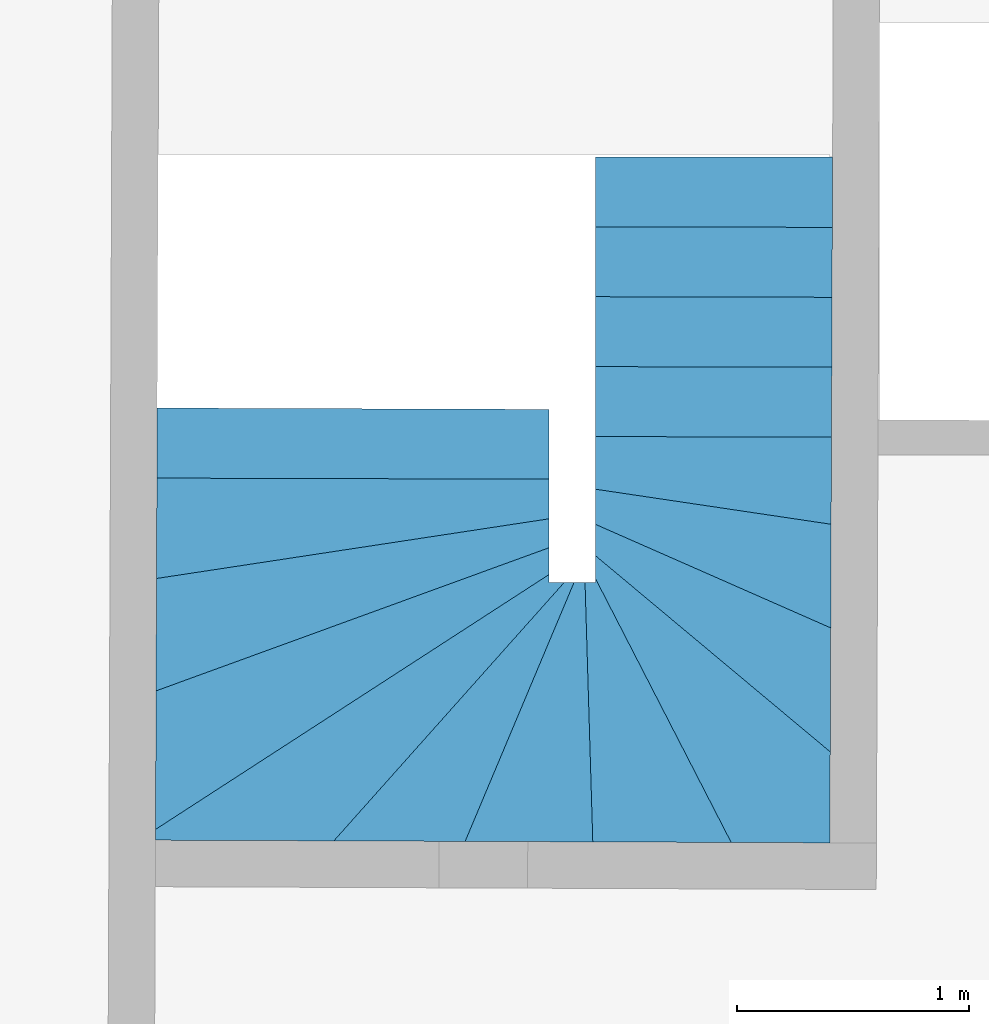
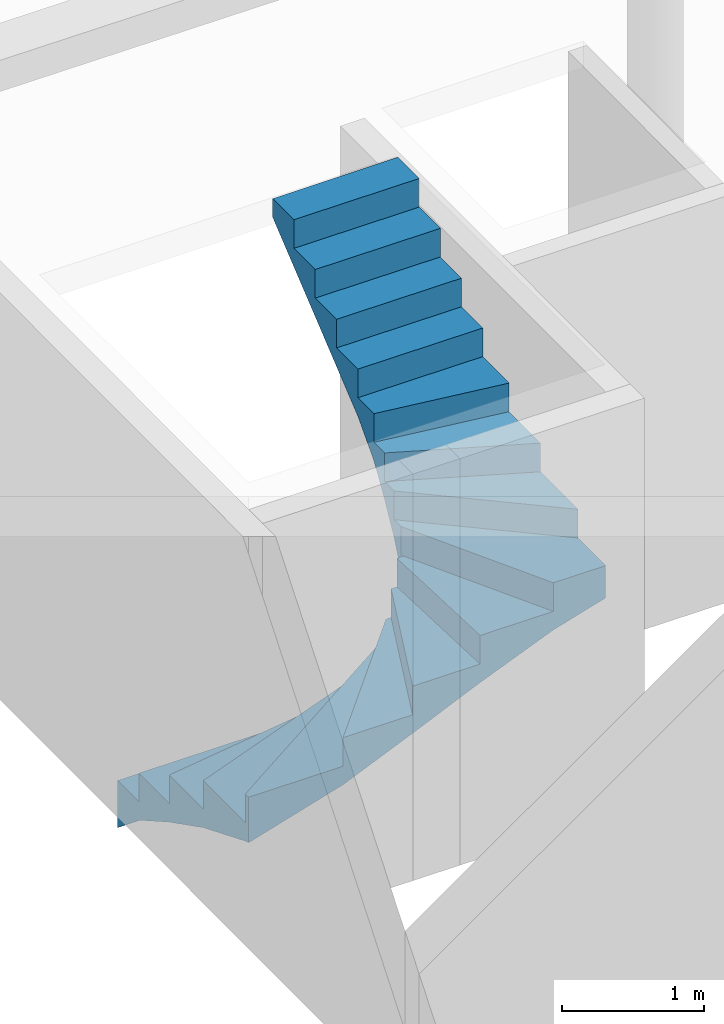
# One storey, part 2 of 2: 1 stair.
"""IFC2X3 building model written with IfcOpenShell, lengths in millimetres."""

import ifcopenshell
import ifcopenshell.guid

model = None  # the IFC model being written
_history = None  # IfcOwnerHistory: only IFC2X3 demands one
_inside = {}  # id of a spatial element -> (the spatial element, [elements in it])
_under = {}  # id of a project, library or spatial element -> (it, [spatial elements below it])
_declared = {}  # id of a project -> (the project, [libraries it declares])
_typed = {}  # id of a type object -> (the type object, [elements of that type])
_made_of = {}  # id of a material, layer set ... -> (it, [elements and type objects made of it])


def new_model(schema):
    """Start an empty IFC model of exactly this schema.

    Asked for "IFC4X3", IfcOpenShell would pick the latest addendum, in which some entities
    have other attributes; the version numbers below select the first issue.
    IFC2X3 requires an IfcOwnerHistory on every rooted entity: one is made here for all.
    """
    global model, _history
    if schema == "IFC4X3":
        model = ifcopenshell.file(schema_version=(4, 3, 0, 0))
    else:
        model = ifcopenshell.file(schema=schema)
    _inside.clear()
    _under.clear()
    _declared.clear()
    _typed.clear()
    _made_of.clear()
    _history = None
    if model.schema == "IFC2X3":
        org = make("IfcOrganization", Name="unknown")
        user = make(
            "IfcPersonAndOrganization",
            ThePerson=make("IfcPerson", FamilyName="unknown"),
            TheOrganization=org,
        )
        app = make(
            "IfcApplication",
            ApplicationDeveloper=org,
            Version="unknown",
            ApplicationFullName="unknown",
            ApplicationIdentifier="unknown",
        )
        _history = make(
            "IfcOwnerHistory",
            OwningUser=user,
            OwningApplication=app,
            ChangeAction="ADDED",
            CreationDate=0,
        )
    return model


def make(cls, **values):
    """One entity of the class cls with the attributes given. An attribute that is None is left unset."""
    return model.create_entity(
        cls, **{name: value for name, value in values.items() if value is not None}
    )


def entity(cls, *values):
    """Any entity or typed value of the class cls, its attributes in the order of the schema. None: left unset."""
    e = model.create_entity(cls)
    for i, value in enumerate(values):
        if value is not None:
            e[i] = value
    return e


def rooted(cls, **values):
    """An entity with a GlobalId (a new one), such as an element, a storey or a relation."""
    return make(cls, GlobalId=ifcopenshell.guid.new(), OwnerHistory=_history, **values)


def si_unit(unit_type, name, prefix=None):
    """IfcSIUnit, for example si_unit("LENGTHUNIT", "METRE", prefix="MILLI")."""
    return make("IfcSIUnit", UnitType=unit_type, Prefix=prefix, Name=name)


def converted_unit(unit_type, name, factor, base, dimensions=None, offset=None):
    """IfcConversionBasedUnit, such as the inch: factor (a typed value) times the base unit."""
    return make(
        "IfcConversionBasedUnit"
        if offset is None
        else "IfcConversionBasedUnitWithOffset",
        ConversionOffset=offset,
        Dimensions=None
        if dimensions is None
        else entity("IfcDimensionalExponents", *dimensions),
        UnitType=unit_type,
        Name=name,
        ConversionFactor=make(
            "IfcMeasureWithUnit", ValueComponent=factor, UnitComponent=base
        ),
    )


def assignment(units):
    """IfcUnitAssignment: the units of a project."""
    return None if units is None else make("IfcUnitAssignment", Units=units)


def point(xyz):
    """IfcCartesianPoint."""
    return None if xyz is None else make("IfcCartesianPoint", Coordinates=xyz)


def direction(xyz):
    """IfcDirection."""
    return None if xyz is None else make("IfcDirection", DirectionRatios=xyz)


def frame(location, z_axis=None, x_axis=None):
    """IfcAxis2Placement3D, a coordinate frame: its origin and axes. An axis left out is left unset."""
    return make(
        "IfcAxis2Placement3D",
        Location=point(location),
        Axis=direction(z_axis),
        RefDirection=direction(x_axis),
    )


def origin():
    """The frame at (0, 0, 0) with its axes left unset."""
    return frame((0.0, 0.0, 0.0))


def place(relative_to, where):
    """IfcLocalPlacement: puts the frame where relative to a parent placement (None: the world)."""
    return make(
        "IfcLocalPlacement", PlacementRelTo=relative_to, RelativePlacement=where
    )


def context(
    kind, dimensions, precision=None, world=None, true_north=None, identifier=None
):
    """IfcGeometricRepresentationContext, for example the 3D "Model" context."""
    return make(
        "IfcGeometricRepresentationContext",
        ContextIdentifier=identifier,
        ContextType=kind,
        CoordinateSpaceDimension=dimensions,
        Precision=precision,
        WorldCoordinateSystem=world,
        TrueNorth=true_north,
    )


def subcontext(parent, identifier, kind, view, scale=None):
    """IfcGeometricRepresentationSubContext, for example "Body" below "Model"."""
    return make(
        "IfcGeometricRepresentationSubContext",
        ContextIdentifier=identifier,
        ContextType=kind,
        ParentContext=parent,
        TargetScale=scale,
        TargetView=view,
    )


def project(units=None, contexts=None):
    """IfcProject with its units and contexts."""
    return rooted(
        "IfcProject",
        Name="project",
        RepresentationContexts=contexts,
        UnitsInContext=assignment(units),
    )


def spatial(cls, under=None, at=None, **own):
    """A site, building, storey or space (cls), placed at a placement, below another one or the project."""
    s = rooted(cls, ObjectPlacement=at, **own)
    if under is not None:
        _under.setdefault(under.id(), (under, []))[1].append(s)
    return s


def faces_of(points, faces, orient=None, outer=None):
    """IfcFace entities. A face is a list of loops; a loop is a list of indices into points, from 0.

    orient and outer hold one flag for each loop. By default every Orientation is true, the
    first loop of a face is its IfcFaceOuterBound and the others are IfcFaceBound.
    """
    made = []
    for i, loops in enumerate(faces):
        bounds = []
        for j, loop in enumerate(loops):
            is_outer = j == 0 if outer is None else outer[i][j]
            bounds.append(
                make(
                    "IfcFaceOuterBound" if is_outer else "IfcFaceBound",
                    Bound=make("IfcPolyLoop", Polygon=[points[k] for k in loop]),
                    Orientation=True if orient is None else orient[i][j],
                )
            )
        made.append(make("IfcFace", Bounds=bounds))
    return made


def faceted_brep(points, faces, orient=None, outer=None, voids=None):
    """IfcFacetedBrep: a solid bounded by flat faces; with voids (closed shells), ...WithVoids."""
    shared = [point(p) for p in points]
    hull = make("IfcClosedShell", CfsFaces=faces_of(shared, faces, orient, outer))
    if voids is None:
        return make("IfcFacetedBrep", Outer=hull)
    return make(
        "IfcFacetedBrepWithVoids",
        Outer=hull,
        Voids=[
            make(cls, CfsFaces=faces_of(shared, fs, o, b)) for cls, fs, o, b in voids
        ],
    )


def shape(context_of_items, identifier, shape_type, items):
    """IfcShapeRepresentation: the items that make up one representation, for example the "Body"."""
    return make(
        "IfcShapeRepresentation",
        ContextOfItems=context_of_items,
        RepresentationIdentifier=identifier,
        RepresentationType=shape_type,
        Items=items,
    )


def material(Name=None, Category=None):
    """IfcMaterial."""
    return make("IfcMaterial", Name=Name, Category=Category)


def made_of(thing, what):
    """Note that an element or type object is made of a material, layer set ...; save() writes the relation."""
    if what is not None:
        _made_of.setdefault(what.id(), (what, []))[1].append(thing)
    return thing


def element(
    cls,
    number,
    at=None,
    inside=None,
    cuts=None,
    type_object=None,
    material=None,
    context=None,
    identifier="Body",
    shape_type=None,
    held_by="IfcProductDefinitionShape",
    body=None,
    shapes=None,
    **own,
):
    """One element of the class cls, such as IfcWall. Its Tag is "e" and its number.

    at: its placement. inside: the storey or other place that contains it. cuts: it is an
    opening in that element (IfcRelVoidsElement). A single representation is given by context,
    identifier, shape_type and body (its items); several are given by shapes. held_by: the class
    of the entity that holds the representations. save() writes the other relations.
    """
    e = rooted(cls, Tag="e%d" % number, ObjectPlacement=at, **own)
    if body is not None:
        shapes = [shape(context, identifier, shape_type, body)]
    if shapes is not None:
        e.Representation = make(held_by, Representations=shapes)
    if inside is not None:
        _inside.setdefault(inside.id(), (inside, []))[1].append(e)
    if cuts is not None:
        rooted(
            "IfcRelVoidsElement", RelatingBuildingElement=cuts, RelatedOpeningElement=e
        )
    if type_object is not None:
        _typed.setdefault(type_object.id(), (type_object, []))[1].append(e)
    return made_of(e, material)


def aggregate(whole, parts):
    """IfcRelAggregates: a whole, such as a stair, and the parts it consists of."""
    return rooted("IfcRelAggregates", RelatingObject=whole, RelatedObjects=parts)


def save(model, path):
    """Write the relations noted so far, then the file.

    IfcRelAggregates (storeys below a building ...), IfcRelContainedInSpatialStructure (elements
    in a storey), IfcRelDefinesByType, IfcRelAssociatesMaterial and IfcRelDeclares: one each for
    every whole, place, type object, material and project.
    """
    for whole, parts in _under.values():
        aggregate(whole, parts)
    for where, things in _inside.values():
        rooted(
            "IfcRelContainedInSpatialStructure",
            RelatedElements=things,
            RelatingStructure=where,
        )
    for kind, things in _typed.values():
        rooted("IfcRelDefinesByType", RelatedObjects=things, RelatingType=kind)
    for what, things in _made_of.values():
        rooted("IfcRelAssociatesMaterial", RelatedObjects=things, RelatingMaterial=what)
    for by, libraries in _declared.values():
        rooted("IfcRelDeclares", RelatingContext=by, RelatedDefinitions=libraries)
    model.write(path)


model = new_model("IFC2X3")

# Units and contexts
model_context = context("Model", 3, precision=1e-05, world=origin())
body_context = subcontext(model_context, "Body", "Model", "MODEL_VIEW")
ifc_project = project(units=[si_unit("LENGTHUNIT", "METRE", prefix="MILLI"), converted_unit("PLANEANGLEUNIT", "DEGREE", entity("IfcPlaneAngleMeasure", 0.0174532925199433), si_unit("PLANEANGLEUNIT", "RADIAN"), dimensions=[0, 0, 0, 0, 0, 0, 0]), si_unit("AREAUNIT", "SQUARE_METRE"), si_unit("VOLUMEUNIT", "CUBIC_METRE")], contexts=[model_context])

# Building, storey
building_placement = place(None, origin())
building = spatial("IfcBuilding", under=ifc_project, at=building_placement, Name="Bâtiment", CompositionType="ELEMENT")
storey_placement = place(building_placement, frame((0.0, 0.0, 1760.0), z_axis=(0.0, 0.0, 1.0), x_axis=(1.0, 0.0, 0.0)))
storey = spatial("IfcBuildingStorey", under=building, at=storey_placement, Name="Rez-de-chaussée", CompositionType="ELEMENT", Elevation=1760.0)

# Stair
ifc_material = material(Name="Escalier semi-tournant")
stair_placement = place(storey_placement, frame((5055.74535985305, -16724.56788399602, -570.01), z_axis=(0.0, 0.0, 1.0), x_axis=(1.0, 0.0, 0.0)))
element("IfcStair", 1, at=stair_placement, inside=storey, material=ifc_material, Name="<Unnamed Element>", ShapeType="NOTDEFINED", context=body_context, shape_type="Brep", body=[
    faceted_brep([(2911.926495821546, 2647.758660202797, 3693.76), (2913.122134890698, 2949.835560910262, 3940.01), (1893.003393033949, 2650.25357057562, 3693.76), (2913.122134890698, 2949.835560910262, 3940.01), (1893.003393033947, 2949.835560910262, 3940.01), (1893.003393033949, 2650.25357057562, 3693.76), (1893.003393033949, 2650.25357057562, 4100.01), (1893.003393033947, 2949.835560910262, 4100.01), (2913.122134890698, 2949.835560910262, 4100.01), (2911.926495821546, 2647.758660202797, 4100.01), (1893.003393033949, 2650.25357057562, 3693.76), (1893.003393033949, 2650.25357057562, 4100.01), (2911.926495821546, 2647.758660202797, 4100.01), (2911.926495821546, 2647.758660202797, 3693.76), (2911.926495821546, 2647.758660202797, 3693.76), (2911.926495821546, 2647.758660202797, 4100.01), (2913.122134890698, 2949.835560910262, 4100.01), (2913.122134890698, 2949.835560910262, 3940.01), (2913.122134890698, 2949.835560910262, 3940.01), (2913.122134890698, 2949.835560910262, 4100.01), (1893.003393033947, 2949.835560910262, 4100.01), (1893.003393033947, 2949.835560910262, 3940.01), (1893.003393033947, 2949.835560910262, 3940.01), (1893.003393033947, 2949.835560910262, 4100.01), (1893.003393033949, 2650.25357057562, 4100.01), (1893.003393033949, 2650.25357057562, 3693.76)], [[[0, 1, 2]], [[3, 4, 5]], [[6, 7, 8, 9]], [[10, 11, 12, 13]], [[14, 15, 16, 17]], [[18, 19, 20, 21]], [[22, 23, 24, 25]]], orient=[[False], [False], [False], [False], [False], [False], [False]]),
    faceted_brep([(2910.735800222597, 2346.930721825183, 3447.51), (2911.926495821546, 2647.758660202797, 3693.76), (1893.003393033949, 2650.25357057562, 3693.76), (1893.003393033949, 2349.422716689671, 3447.51), (1893.003393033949, 2349.422716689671, 3853.76), (1893.003393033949, 2650.25357057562, 3853.76), (2911.926495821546, 2647.758660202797, 3853.76), (2910.735800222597, 2346.930721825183, 3853.76), (1893.003393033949, 2349.422716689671, 3447.51), (1893.003393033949, 2349.422716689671, 3853.76), (2910.735800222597, 2346.930721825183, 3853.76), (2910.735800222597, 2346.930721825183, 3447.51), (2910.735800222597, 2346.930721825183, 3447.51), (2910.735800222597, 2346.930721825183, 3853.76), (2911.926495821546, 2647.758660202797, 3853.76), (2911.926495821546, 2647.758660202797, 3693.76), (2911.926495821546, 2647.758660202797, 3693.76), (2911.926495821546, 2647.758660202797, 3853.76), (1893.003393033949, 2650.25357057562, 3853.76), (1893.003393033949, 2650.25357057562, 3693.76), (1893.003393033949, 2650.25357057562, 3693.76), (1893.003393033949, 2650.25357057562, 3853.76), (1893.003393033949, 2349.422716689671, 3853.76), (1893.003393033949, 2349.422716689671, 3447.51)], [[[0, 1, 2, 3]], [[4, 5, 6, 7]], [[8, 9, 10, 11]], [[12, 13, 14, 15]], [[16, 17, 18, 19]], [[20, 21, 22, 23]]], orient=[[False], [False], [False], [False], [False], [False]]),
    faceted_brep([(2909.545104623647, 2046.10278344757, 3201.26), (2910.735800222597, 2346.930721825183, 3447.51), (1893.003393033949, 2349.422716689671, 3447.51), (1893.003393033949, 2048.59186280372, 3201.26), (1893.003393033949, 2048.59186280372, 3607.51), (1893.003393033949, 2349.422716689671, 3607.51), (2910.735800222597, 2346.930721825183, 3607.51), (2909.545104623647, 2046.10278344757, 3607.51), (1893.003393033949, 2048.59186280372, 3201.26), (1893.003393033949, 2048.59186280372, 3607.51), (2909.545104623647, 2046.10278344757, 3607.51), (2909.545104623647, 2046.10278344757, 3201.26), (2909.545104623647, 2046.10278344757, 3201.26), (2909.545104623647, 2046.10278344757, 3607.51), (2910.735800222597, 2346.930721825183, 3607.51), (2910.735800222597, 2346.930721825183, 3447.51), (2910.735800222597, 2346.930721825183, 3447.51), (2910.735800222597, 2346.930721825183, 3607.51), (1893.003393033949, 2349.422716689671, 3607.51), (1893.003393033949, 2349.422716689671, 3447.51), (1893.003393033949, 2349.422716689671, 3447.51), (1893.003393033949, 2349.422716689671, 3607.51), (1893.003393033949, 2048.59186280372, 3607.51), (1893.003393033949, 2048.59186280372, 3201.26)], [[[0, 1, 2, 3]], [[4, 5, 6, 7]], [[8, 9, 10, 11]], [[12, 13, 14, 15]], [[16, 17, 18, 19]], [[20, 21, 22, 23]]], orient=[[False], [False], [False], [False], [False], [False]]),
    faceted_brep([(2908.354409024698, 1745.274845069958, 2955.01), (2909.545104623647, 2046.10278344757, 3201.26), (1893.003393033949, 2048.59186280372, 3201.26), (1893.003393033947, 1747.761008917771, 2955.01), (1893.003393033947, 1747.761008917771, 3361.26), (1893.003393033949, 2048.59186280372, 3361.26), (2909.545104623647, 2046.10278344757, 3361.26), (2908.354409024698, 1745.274845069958, 3361.26), (1893.003393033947, 1747.761008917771, 2955.01), (1893.003393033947, 1747.761008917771, 3361.26), (2908.354409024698, 1745.274845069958, 3361.26), (2908.354409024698, 1745.274845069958, 2955.01), (2908.354409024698, 1745.274845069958, 2955.01), (2908.354409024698, 1745.274845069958, 3361.26), (2909.545104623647, 2046.10278344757, 3361.26), (2909.545104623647, 2046.10278344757, 3201.26), (2909.545104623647, 2046.10278344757, 3201.26), (2909.545104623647, 2046.10278344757, 3361.26), (1893.003393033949, 2048.59186280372, 3361.26), (1893.003393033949, 2048.59186280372, 3201.26), (1893.003393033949, 2048.59186280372, 3201.26), (1893.003393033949, 2048.59186280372, 3361.26), (1893.003393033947, 1747.761008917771, 3361.26), (1893.003393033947, 1747.761008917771, 2955.01)], [[[0, 1, 2, 3]], [[4, 5, 6, 7]], [[8, 9, 10, 11]], [[12, 13, 14, 15]], [[16, 17, 18, 19]], [[20, 21, 22, 23]]], orient=[[False], [False], [False], [False], [False], [False]]),
    faceted_brep([(2906.871176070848, 1370.537664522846, 2708.76), (2908.354409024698, 1745.274845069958, 2955.01), (1893.003393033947, 1521.319357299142, 2708.76), (2908.354409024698, 1745.274845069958, 2955.01), (1893.003393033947, 1747.761008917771, 2955.01), (1893.003393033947, 1521.319357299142, 2708.76), (1893.003393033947, 1521.319357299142, 3115.01), (1893.003393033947, 1747.761008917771, 3115.01), (2908.354409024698, 1745.274845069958, 3115.01), (2906.871176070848, 1370.537664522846, 3115.01), (1893.003393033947, 1521.319357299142, 2708.76), (1893.003393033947, 1521.319357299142, 3115.01), (2906.871176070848, 1370.537664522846, 3115.01), (2906.871176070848, 1370.537664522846, 2708.76), (2906.871176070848, 1370.537664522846, 2708.76), (2906.871176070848, 1370.537664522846, 3115.01), (2908.354409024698, 1745.274845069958, 3115.01), (2908.354409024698, 1745.274845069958, 2955.01), (2908.354409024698, 1745.274845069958, 2955.01), (2908.354409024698, 1745.274845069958, 3115.01), (1893.003393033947, 1747.761008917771, 3115.01), (1893.003393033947, 1747.761008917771, 2955.01), (1893.003393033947, 1747.761008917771, 2955.01), (1893.003393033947, 1747.761008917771, 3115.01), (1893.003393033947, 1521.319357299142, 3115.01), (1893.003393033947, 1521.319357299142, 2708.76)], [[[0, 1, 2]], [[3, 4, 5]], [[6, 7, 8, 9]], [[10, 11, 12, 13]], [[14, 15, 16, 17]], [[18, 19, 20, 21]], [[22, 23, 24, 25]]], orient=[[False], [False], [False], [False], [False], [False], [False]]),
    faceted_brep([(2905.106470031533, 924.6866173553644, 2462.51), (2906.871176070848, 1370.537664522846, 2708.76), (1893.003393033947, 1370.176256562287, 2462.51), (2906.871176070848, 1370.537664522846, 2708.76), (1893.003393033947, 1521.319357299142, 2708.76), (1893.003393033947, 1370.176256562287, 2462.51), (1893.003393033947, 1370.176256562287, 2868.76), (1893.003393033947, 1521.319357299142, 2868.76), (2906.871176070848, 1370.537664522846, 2868.76), (2905.106470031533, 924.6866173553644, 2868.76), (1893.003393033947, 1370.176256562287, 2462.51), (1893.003393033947, 1370.176256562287, 2868.76), (2905.106470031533, 924.6866173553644, 2868.76), (2905.106470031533, 924.6866173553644, 2462.51), (2905.106470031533, 924.6866173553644, 2462.51), (2905.106470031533, 924.6866173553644, 2868.76), (2906.871176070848, 1370.537664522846, 2868.76), (2906.871176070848, 1370.537664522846, 2708.76), (2906.871176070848, 1370.537664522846, 2708.76), (2906.871176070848, 1370.537664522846, 2868.76), (1893.003393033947, 1521.319357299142, 2868.76), (1893.003393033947, 1521.319357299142, 2708.76), (1893.003393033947, 1521.319357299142, 2708.76), (1893.003393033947, 1521.319357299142, 2868.76), (1893.003393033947, 1370.176256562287, 2868.76), (1893.003393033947, 1370.176256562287, 2462.51)], [[[0, 1, 2]], [[3, 4, 5]], [[6, 7, 8, 9]], [[10, 11, 12, 13]], [[14, 15, 16, 17]], [[18, 19, 20, 21]], [[22, 23, 24, 25]]], orient=[[False], [False], [False], [False], [False], [False], [False]]),
    faceted_brep([(2902.995917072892, 391.4577249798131, 2216.26), (2905.106470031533, 924.6866173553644, 2462.51), (1893.003393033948, 1235.365693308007, 2216.26), (2905.106470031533, 924.6866173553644, 2462.51), (1893.003393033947, 1370.176256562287, 2462.51), (1893.003393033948, 1235.365693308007, 2216.26), (1893.003393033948, 1235.365693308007, 2622.51), (1893.003393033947, 1370.176256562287, 2622.51), (2905.106470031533, 924.6866173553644, 2622.51), (2902.995917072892, 391.4577249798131, 2622.51), (1893.003393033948, 1235.365693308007, 2216.26), (1893.003393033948, 1235.365693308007, 2622.51), (2902.995917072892, 391.4577249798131, 2622.51), (2902.995917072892, 391.4577249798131, 2216.26), (2902.995917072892, 391.4577249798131, 2216.26), (2902.995917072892, 391.4577249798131, 2622.51), (2905.106470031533, 924.6866173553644, 2622.51), (2905.106470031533, 924.6866173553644, 2462.51), (2905.106470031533, 924.6866173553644, 2462.51), (2905.106470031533, 924.6866173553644, 2622.51), (1893.003393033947, 1370.176256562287, 2622.51), (1893.003393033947, 1370.176256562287, 2462.51), (1893.003393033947, 1370.176256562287, 2462.51), (1893.003393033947, 1370.176256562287, 2622.51), (1893.003393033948, 1235.365693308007, 2622.51), (1893.003393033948, 1235.365693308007, 2216.26)], [[[0, 1, 2]], [[3, 4, 5]], [[6, 7, 8, 9]], [[10, 11, 12, 13]], [[14, 15, 16, 17]], [[18, 19, 20, 21]], [[22, 23, 24, 25]]], orient=[[False], [False], [False], [False], [False], [False], [False]]),
    faceted_brep([(2476.923187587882, 1.690289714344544, 1970.01), (2901.446542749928, 0.01000000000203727, 2098.12590845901), (1893.003393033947, 1136.819234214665, 1970.01), (2901.446542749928, 0.01000000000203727, 2098.12590845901), (1893.003393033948, 1235.365693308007, 2216.26), (1893.003393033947, 1136.819234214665, 1970.01), (2901.446542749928, 0.01000000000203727, 2098.12590845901), (2902.995917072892, 391.4577249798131, 2216.26), (1893.003393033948, 1235.365693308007, 2216.26), (1893.003393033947, 1136.819234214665, 2376.26), (1893.003393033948, 1235.365693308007, 2376.26), (2902.995917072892, 391.4577249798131, 2376.26), (2901.446542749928, 0.01000000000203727, 2376.26), (2476.923187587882, 1.690289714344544, 2376.26), (1893.003393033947, 1136.819234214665, 1970.01), (1893.003393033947, 1136.819234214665, 2376.26), (2476.923187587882, 1.690289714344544, 2376.26), (2476.923187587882, 1.690289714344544, 1970.01), (2476.923187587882, 1.690289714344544, 1970.01), (2476.923187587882, 1.690289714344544, 2376.26), (2901.446542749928, 0.01000000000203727, 2376.26), (2901.446542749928, 0.01000000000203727, 2098.12590845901), (2901.446542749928, 0.01000000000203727, 2098.12590845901), (2901.446542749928, 0.01000000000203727, 2376.26), (2902.995917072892, 391.4577249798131, 2376.26), (2902.995917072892, 391.4577249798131, 2216.26), (2902.995917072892, 391.4577249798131, 2216.26), (2902.995917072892, 391.4577249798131, 2376.26), (1893.003393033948, 1235.365693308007, 2376.26), (1893.003393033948, 1235.365693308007, 2216.26), (1893.003393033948, 1235.365693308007, 2216.26), (1893.003393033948, 1235.365693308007, 2376.26), (1893.003393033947, 1136.819234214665, 2376.26), (1893.003393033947, 1136.819234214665, 1970.01)], [[[0, 1, 2]], [[3, 4, 5]], [[6, 7, 8]], [[9, 10, 11, 12, 13]], [[14, 15, 16, 17]], [[18, 19, 20, 21]], [[22, 23, 24, 25]], [[26, 27, 28, 29]], [[30, 31, 32, 33]]], orient=[[False], [False], [False], [False], [False], [False], [False], [False], [False]]),
    faceted_brep([(1881.452222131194, 4.047200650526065, 1723.76), (2476.923187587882, 1.690289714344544, 1970.01), (1848.016859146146, 1119.835560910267, 1723.76), (2476.923187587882, 1.690289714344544, 1970.01), (1893.003393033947, 1119.835560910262, 1902.522254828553), (1848.016859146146, 1119.835560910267, 1723.76), (2476.923187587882, 1.690289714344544, 1970.01), (1893.003393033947, 1136.819234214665, 1970.01), (1893.003393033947, 1119.835560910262, 1902.522254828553), (1848.016859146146, 1119.835560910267, 2130.01), (1893.003393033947, 1119.835560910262, 2130.01), (1893.003393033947, 1136.819234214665, 2130.01), (2476.923187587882, 1.690289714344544, 2130.01), (1881.452222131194, 4.047200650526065, 2130.01), (1848.016859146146, 1119.835560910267, 1723.76), (1848.016859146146, 1119.835560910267, 2130.01), (1881.452222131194, 4.047200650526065, 2130.01), (1881.452222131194, 4.047200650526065, 1723.76), (1881.452222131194, 4.047200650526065, 1723.76), (1881.452222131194, 4.047200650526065, 2130.01), (2476.923187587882, 1.690289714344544, 2130.01), (2476.923187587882, 1.690289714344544, 1970.01), (2476.923187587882, 1.690289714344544, 1970.01), (2476.923187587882, 1.690289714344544, 2130.01), (1893.003393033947, 1136.819234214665, 2130.01), (1893.003393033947, 1136.819234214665, 1970.01), (1893.003393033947, 1136.819234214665, 1970.01), (1893.003393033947, 1136.819234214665, 2130.01), (1893.003393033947, 1119.835560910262, 2130.01), (1893.003393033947, 1119.835560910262, 1902.522254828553), (1893.003393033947, 1119.835560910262, 1902.522254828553), (1893.003393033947, 1119.835560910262, 2130.01), (1848.016859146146, 1119.835560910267, 2130.01), (1848.016859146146, 1119.835560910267, 1723.76)], [[[0, 1, 2]], [[3, 4, 5]], [[6, 7, 8]], [[9, 10, 11, 12, 13]], [[14, 15, 16, 17]], [[18, 19, 20, 21]], [[22, 23, 24, 25]], [[26, 27, 28, 29]], [[30, 31, 32, 33]]], orient=[[False], [False], [False], [False], [False], [False], [False], [False], [False]]),
    faceted_brep([(1332.247034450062, 6.220988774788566, 1477.51), (1881.452222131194, 4.047200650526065, 1723.76), (1800.548069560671, 1119.835560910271, 1477.51), (1881.452222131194, 4.047200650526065, 1723.76), (1848.016859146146, 1119.835560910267, 1723.76), (1800.548069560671, 1119.835560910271, 1477.51), (1800.548069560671, 1119.835560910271, 1883.76), (1848.016859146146, 1119.835560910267, 1883.76), (1881.452222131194, 4.047200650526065, 1883.76), (1332.247034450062, 6.220988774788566, 1883.76), (1800.548069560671, 1119.835560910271, 1477.51), (1800.548069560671, 1119.835560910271, 1883.76), (1332.247034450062, 6.220988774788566, 1883.76), (1332.247034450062, 6.220988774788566, 1477.51), (1332.247034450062, 6.220988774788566, 1477.51), (1332.247034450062, 6.220988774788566, 1883.76), (1881.452222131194, 4.047200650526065, 1883.76), (1881.452222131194, 4.047200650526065, 1723.76), (1881.452222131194, 4.047200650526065, 1723.76), (1881.452222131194, 4.047200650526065, 1883.76), (1848.016859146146, 1119.835560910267, 1883.76), (1848.016859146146, 1119.835560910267, 1723.76), (1848.016859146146, 1119.835560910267, 1723.76), (1848.016859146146, 1119.835560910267, 1883.76), (1800.548069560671, 1119.835560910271, 1883.76), (1800.548069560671, 1119.835560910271, 1477.51)], [[[0, 1, 2]], [[3, 4, 5]], [[6, 7, 8, 9]], [[10, 11, 12, 13]], [[14, 15, 16, 17]], [[18, 19, 20, 21]], [[22, 23, 24, 25]]], orient=[[False], [False], [False], [False], [False], [False], [False]]),
    faceted_brep([(767.3711352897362, 8.456802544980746, 1231.26), (1332.247034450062, 6.220988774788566, 1477.51), (1758.194653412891, 1119.835560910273, 1231.26), (1332.247034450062, 6.220988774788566, 1477.51), (1800.548069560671, 1119.835560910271, 1477.51), (1758.194653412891, 1119.835560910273, 1231.26), (1758.194653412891, 1119.835560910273, 1637.51), (1800.548069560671, 1119.835560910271, 1637.51), (1332.247034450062, 6.220988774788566, 1637.51), (767.3711352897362, 8.456802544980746, 1637.51), (1758.194653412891, 1119.835560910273, 1231.26), (1758.194653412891, 1119.835560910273, 1637.51), (767.3711352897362, 8.456802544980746, 1637.51), (767.3711352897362, 8.456802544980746, 1231.26), (767.3711352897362, 8.456802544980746, 1231.26), (767.3711352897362, 8.456802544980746, 1637.51), (1332.247034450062, 6.220988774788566, 1637.51), (1332.247034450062, 6.220988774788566, 1477.51), (1332.247034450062, 6.220988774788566, 1477.51), (1332.247034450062, 6.220988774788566, 1637.51), (1800.548069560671, 1119.835560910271, 1637.51), (1800.548069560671, 1119.835560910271, 1477.51), (1800.548069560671, 1119.835560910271, 1477.51), (1800.548069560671, 1119.835560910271, 1637.51), (1758.194653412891, 1119.835560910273, 1637.51), (1758.194653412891, 1119.835560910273, 1231.26)], [[[0, 1, 2]], [[3, 4, 5]], [[6, 7, 8, 9]], [[10, 11, 12, 13]], [[14, 15, 16, 17]], [[18, 19, 20, 21]], [[22, 23, 24, 25]]], orient=[[False], [False], [False], [False], [False], [False], [False]]),
    faceted_brep([(0.1925990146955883, 57.62750639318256, 985.01), (0.01000000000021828, 11.49406541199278, 998.9748870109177), (1693.003393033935, 1154.092236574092, 985.01), (0.01000000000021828, 11.49406541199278, 998.9748870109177), (1693.003393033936, 1119.83556091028, 1069.835354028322), (1693.003393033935, 1154.092236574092, 985.01), (0.01000000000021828, 11.49406541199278, 998.9748870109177), (767.3711352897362, 8.456802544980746, 1231.26), (1693.003393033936, 1119.83556091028, 1069.835354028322), (767.3711352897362, 8.456802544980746, 1231.26), (1758.194653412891, 1119.835560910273, 1231.26), (1693.003393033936, 1119.83556091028, 1069.835354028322), (1693.003393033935, 1154.092236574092, 1391.26), (1693.003393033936, 1119.83556091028, 1391.26), (1758.194653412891, 1119.835560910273, 1391.26), (767.3711352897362, 8.456802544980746, 1391.26), (0.01000000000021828, 11.49406541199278, 1391.26), (0.1925990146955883, 57.62750639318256, 1391.26), (1693.003393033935, 1154.092236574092, 985.01), (1693.003393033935, 1154.092236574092, 1391.26), (0.1925990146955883, 57.62750639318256, 1391.26), (0.1925990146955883, 57.62750639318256, 985.01), (0.1925990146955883, 57.62750639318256, 985.01), (0.1925990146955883, 57.62750639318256, 1391.26), (0.01000000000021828, 11.49406541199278, 1391.26), (0.01000000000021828, 11.49406541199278, 998.9748870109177), (0.01000000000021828, 11.49406541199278, 998.9748870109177), (0.01000000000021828, 11.49406541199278, 1391.26), (767.3711352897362, 8.456802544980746, 1391.26), (767.3711352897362, 8.456802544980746, 1231.26), (767.3711352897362, 8.456802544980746, 1231.26), (767.3711352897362, 8.456802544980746, 1391.26), (1758.194653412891, 1119.835560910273, 1391.26), (1758.194653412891, 1119.835560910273, 1231.26), (1758.194653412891, 1119.835560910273, 1231.26), (1758.194653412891, 1119.835560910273, 1391.26), (1693.003393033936, 1119.83556091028, 1391.26), (1693.003393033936, 1119.83556091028, 1069.835354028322), (1693.003393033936, 1119.83556091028, 1069.835354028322), (1693.003393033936, 1119.83556091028, 1391.26), (1693.003393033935, 1154.092236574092, 1391.26), (1693.003393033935, 1154.092236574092, 985.01)], [[[0, 1, 2]], [[3, 4, 5]], [[6, 7, 8]], [[9, 10, 11]], [[12, 13, 14, 15, 16, 17]], [[18, 19, 20, 21]], [[22, 23, 24, 25]], [[26, 27, 28, 29]], [[30, 31, 32, 33]], [[34, 35, 36, 37]], [[38, 39, 40, 41]]], orient=[[False], [False], [False], [False], [False], [False], [False], [False], [False], [False], [False]]),
    faceted_brep([(2.55207241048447, 653.7458744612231, 738.76), (0.1925990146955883, 57.62750639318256, 985.01), (1693.003393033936, 1269.487043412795, 738.76), (0.1925990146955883, 57.62750639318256, 985.01), (1693.003393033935, 1154.092236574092, 985.01), (1693.003393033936, 1269.487043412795, 738.76), (1693.003393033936, 1269.487043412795, 1145.01), (1693.003393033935, 1154.092236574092, 1145.01), (0.1925990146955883, 57.62750639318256, 1145.01), (2.55207241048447, 653.7458744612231, 1145.01), (1693.003393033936, 1269.487043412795, 738.76), (1693.003393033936, 1269.487043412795, 1145.01), (2.55207241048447, 653.7458744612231, 1145.01), (2.55207241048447, 653.7458744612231, 738.76), (2.55207241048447, 653.7458744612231, 738.76), (2.55207241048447, 653.7458744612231, 1145.01), (0.1925990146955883, 57.62750639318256, 1145.01), (0.1925990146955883, 57.62750639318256, 985.01), (0.1925990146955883, 57.62750639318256, 985.01), (0.1925990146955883, 57.62750639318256, 1145.01), (1693.003393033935, 1154.092236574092, 1145.01), (1693.003393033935, 1154.092236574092, 985.01), (1693.003393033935, 1154.092236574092, 985.01), (1693.003393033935, 1154.092236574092, 1145.01), (1693.003393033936, 1269.487043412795, 1145.01), (1693.003393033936, 1269.487043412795, 738.76)], [[[0, 1, 2]], [[3, 4, 5]], [[6, 7, 8, 9]], [[10, 11, 12, 13]], [[14, 15, 16, 17]], [[18, 19, 20, 21]], [[22, 23, 24, 25]]], orient=[[False], [False], [False], [False], [False], [False], [False]]),
    faceted_brep([(4.465844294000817, 1137.258243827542, 492.51), (2.55207241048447, 653.7458744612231, 738.76), (1693.003393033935, 1393.983762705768, 492.51), (2.55207241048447, 653.7458744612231, 738.76), (1693.003393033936, 1269.487043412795, 738.76), (1693.003393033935, 1393.983762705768, 492.51), (1693.003393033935, 1393.983762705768, 898.76), (1693.003393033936, 1269.487043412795, 898.76), (2.55207241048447, 653.7458744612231, 898.76), (4.465844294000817, 1137.258243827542, 898.76), (1693.003393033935, 1393.983762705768, 492.51), (1693.003393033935, 1393.983762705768, 898.76), (4.465844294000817, 1137.258243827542, 898.76), (4.465844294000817, 1137.258243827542, 492.51), (4.465844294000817, 1137.258243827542, 492.51), (4.465844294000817, 1137.258243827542, 898.76), (2.55207241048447, 653.7458744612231, 898.76), (2.55207241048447, 653.7458744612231, 738.76), (2.55207241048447, 653.7458744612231, 738.76), (2.55207241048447, 653.7458744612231, 898.76), (1693.003393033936, 1269.487043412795, 898.76), (1693.003393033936, 1269.487043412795, 738.76), (1693.003393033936, 1269.487043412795, 738.76), (1693.003393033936, 1269.487043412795, 898.76), (1693.003393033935, 1393.983762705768, 898.76), (1693.003393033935, 1393.983762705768, 492.51)], [[[0, 1, 2]], [[3, 4, 5]], [[6, 7, 8, 9]], [[10, 11, 12, 13]], [[14, 15, 16, 17]], [[18, 19, 20, 21]], [[22, 23, 24, 25]]], orient=[[False], [False], [False], [False], [False], [False], [False]]),
    faceted_brep([(6.175235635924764, 1569.134093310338, 246.26), (4.465844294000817, 1137.258243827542, 492.51), (1693.003393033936, 1564.399494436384, 246.26), (4.465844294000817, 1137.258243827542, 492.51), (1693.003393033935, 1393.983762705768, 492.51), (1693.003393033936, 1564.399494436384, 246.26), (1693.003393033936, 1564.399494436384, 652.51), (1693.003393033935, 1393.983762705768, 652.51), (4.465844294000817, 1137.258243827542, 652.51), (6.175235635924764, 1569.134093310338, 652.51), (1693.003393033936, 1564.399494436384, 246.26), (1693.003393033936, 1564.399494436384, 652.51), (6.175235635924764, 1569.134093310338, 652.51), (6.175235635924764, 1569.134093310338, 246.26), (6.175235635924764, 1569.134093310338, 246.26), (6.175235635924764, 1569.134093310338, 652.51), (4.465844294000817, 1137.258243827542, 652.51), (4.465844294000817, 1137.258243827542, 492.51), (4.465844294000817, 1137.258243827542, 492.51), (4.465844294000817, 1137.258243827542, 652.51), (1693.003393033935, 1393.983762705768, 652.51), (1693.003393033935, 1393.983762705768, 492.51), (1693.003393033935, 1393.983762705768, 492.51), (1693.003393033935, 1393.983762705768, 652.51), (1693.003393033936, 1564.399494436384, 652.51), (1693.003393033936, 1564.399494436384, 246.26)], [[[0, 1, 2]], [[3, 4, 5]], [[6, 7, 8, 9]], [[10, 11, 12, 13]], [[14, 15, 16, 17]], [[18, 19, 20, 21]], [[22, 23, 24, 25]]], orient=[[False], [False], [False], [False], [False], [False], [False]]),
    faceted_brep([(7.368204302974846, 1870.536319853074, 0.009999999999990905), (6.175235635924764, 1569.134093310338, 246.26), (1693.003393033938, 1864.656145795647, 0.009999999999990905), (6.175235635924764, 1569.134093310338, 246.26), (1693.003393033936, 1564.399494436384, 246.26), (1693.003393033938, 1864.656145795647, 0.009999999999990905), (1693.003393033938, 1864.656145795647, 406.26), (1693.003393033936, 1564.399494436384, 406.26), (6.175235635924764, 1569.134093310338, 406.26), (7.368204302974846, 1870.536319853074, 406.26), (1693.003393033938, 1864.656145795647, 0.009999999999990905), (1693.003393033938, 1864.656145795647, 406.26), (7.368204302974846, 1870.536319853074, 406.26), (7.368204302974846, 1870.536319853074, 0.009999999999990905), (7.368204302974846, 1870.536319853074, 0.009999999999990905), (7.368204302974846, 1870.536319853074, 406.26), (6.175235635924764, 1569.134093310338, 406.26), (6.175235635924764, 1569.134093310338, 246.26), (6.175235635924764, 1569.134093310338, 246.26), (6.175235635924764, 1569.134093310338, 406.26), (1693.003393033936, 1564.399494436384, 406.26), (1693.003393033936, 1564.399494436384, 246.26), (1693.003393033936, 1564.399494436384, 246.26), (1693.003393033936, 1564.399494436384, 406.26), (1693.003393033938, 1864.656145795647, 406.26), (1693.003393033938, 1864.656145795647, 0.009999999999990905)], [[[0, 1, 2]], [[3, 4, 5]], [[6, 7, 8, 9]], [[10, 11, 12, 13]], [[14, 15, 16, 17]], [[18, 19, 20, 21]], [[22, 23, 24, 25]]], orient=[[False], [False], [False], [False], [False], [False], [False]]),
])

save(model, "model.ifc")
